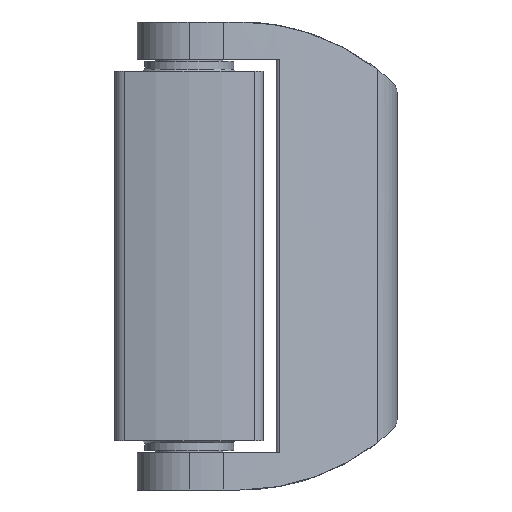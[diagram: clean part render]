
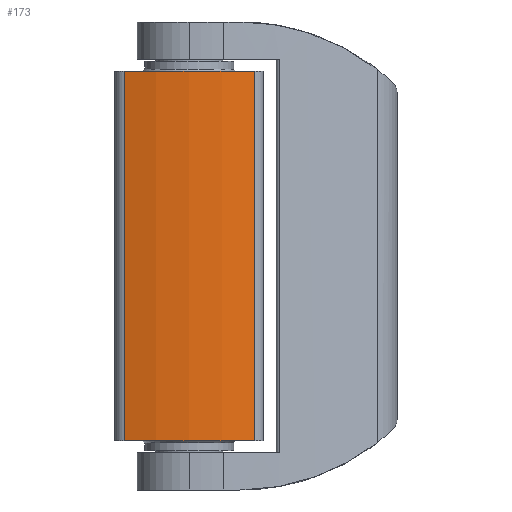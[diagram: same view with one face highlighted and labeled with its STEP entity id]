
A CAD part, front view. The second image highlights one B-rep face of the part: STEP entity #173.
In plain terms, the highlighted cylindrical face has radius 60 mm (diameter 120 mm), a partial arc.
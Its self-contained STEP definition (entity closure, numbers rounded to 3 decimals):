
#173 = ADVANCED_FACE( '', ( #249 ), #250, .T. );
#249 = FACE_OUTER_BOUND( '', #432, .T. );
#250 = CYLINDRICAL_SURFACE( '', #433, 60. );
#432 = EDGE_LOOP( '', ( #628, #629, #630, #631 ) );
#433 = AXIS2_PLACEMENT_3D( '', #632, #633, #634 );
#628 = ORIENTED_EDGE( '', *, *, #1088, .T. );
#629 = ORIENTED_EDGE( '', *, *, #1089, .F. );
#630 = ORIENTED_EDGE( '', *, *, #1090, .F. );
#631 = ORIENTED_EDGE( '', *, *, #1086, .T. );
#632 = CARTESIAN_POINT( '', ( 20., 44.25, 49.7 ) );
#633 = DIRECTION( '', ( 0., 0., 1. ) );
#634 = DIRECTION( '', ( -1., 0., 0. ) );
#1086 = EDGE_CURVE( '', #1232, #1230, #1233, .T. );
#1088 = EDGE_CURVE( '', #1230, #1235, #1236, .T. );
#1089 = EDGE_CURVE( '', #1237, #1235, #1238, .T. );
#1090 = EDGE_CURVE( '', #1232, #1237, #1239, .T. );
#1230 = VERTEX_POINT( '', #1462 );
#1232 = VERTEX_POINT( '', #1464 );
#1233 = LINE( '', #1465, #1466 );
#1235 = VERTEX_POINT( '', #1468 );
#1236 = CIRCLE( '', #1469, 60. );
#1237 = VERTEX_POINT( '', #1470 );
#1238 = LINE( '', #1471, #1472 );
#1239 = CIRCLE( '', #1473, 60. );
#1462 = CARTESIAN_POINT( '', ( 2.478, -13.134, -49.7 ) );
#1464 = CARTESIAN_POINT( '', ( 2.478, -13.134, 49.7 ) );
#1465 = CARTESIAN_POINT( '', ( 2.478, -13.134, 49.7 ) );
#1466 = VECTOR( '', #1839, 1000. );
#1468 = CARTESIAN_POINT( '', ( 37.522, -13.134, -49.7 ) );
#1469 = AXIS2_PLACEMENT_3D( '', #1843, #1844, #1845 );
#1470 = CARTESIAN_POINT( '', ( 37.522, -13.134, 49.7 ) );
#1471 = CARTESIAN_POINT( '', ( 37.522, -13.134, 49.7 ) );
#1472 = VECTOR( '', #1846, 1000. );
#1473 = AXIS2_PLACEMENT_3D( '', #1847, #1848, #1849 );
#1839 = DIRECTION( '', ( 0., 0., -1. ) );
#1843 = CARTESIAN_POINT( '', ( 20., 44.25, -49.7 ) );
#1844 = DIRECTION( '', ( 0., 0., 1. ) );
#1845 = DIRECTION( '', ( 1., 0., 0. ) );
#1846 = DIRECTION( '', ( 0., 0., -1. ) );
#1847 = CARTESIAN_POINT( '', ( 20., 44.25, 49.7 ) );
#1848 = DIRECTION( '', ( 0., 0., 1. ) );
#1849 = DIRECTION( '', ( 1., 0., 0. ) );
